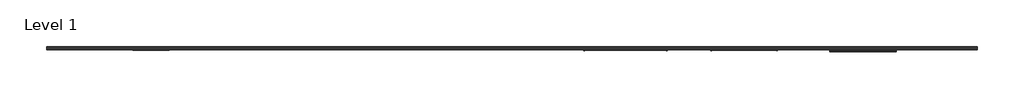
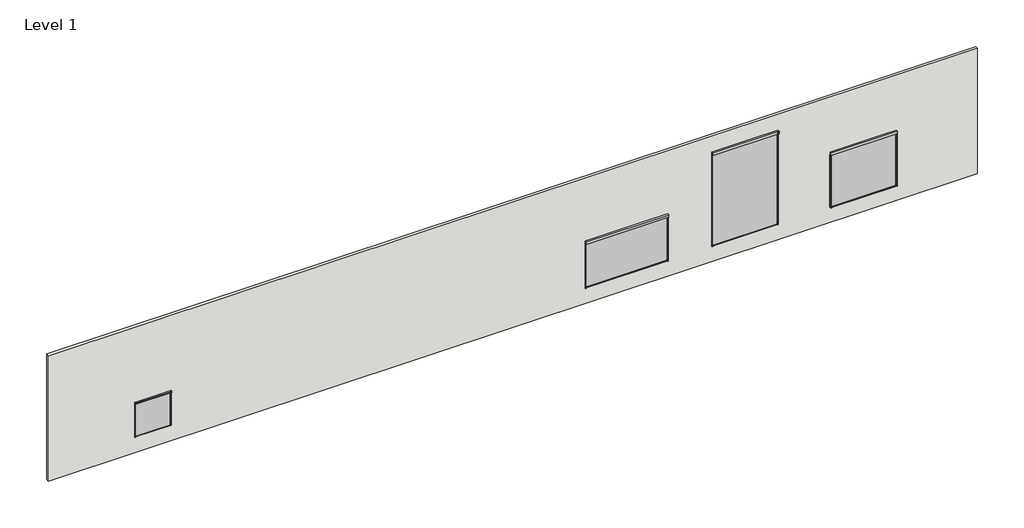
# One storey, incomplete: 4 proxies, 1 wall.
"""IFC4 building model written with IfcOpenShell, lengths in millimetres."""

from ifc_helpers import new_model, si_unit, origin, origin_with_axes, place, context, project, spatial, polyline, outline, extrude, transform, mapped, element, save
from components import generic_models_36cb86f8, generic_models_0fbfa0ec, generic_models_5faf2f5d, generic_models_8a4777b7, zip_80_zip_80_a5059c3e, zip110_r_zip110_r_12c8bcc6, zip110_r_zip110_r_a34fa557, zip110_r_zip110_r_59bd9ca7

model = new_model("IFC4")

# Units and contexts
model_context = context("Model", 3, world=origin())
ifc_project = project(units=[si_unit("LENGTHUNIT", "METRE", prefix="MILLI")], contexts=[model_context])

# Site, building, storey
site = spatial("IfcSite", under=ifc_project)
building = spatial("IfcBuilding", under=site)
storey = spatial("IfcBuildingStorey", under=building, Name="Level 1", Elevation=0.0)

# Proxies
placement = place(None, origin())
generic_models_shape = generic_models_36cb86f8(model_context)
generic_models_2_shape = generic_models_0fbfa0ec(model_context)
element("IfcBuildingElementProxy", 1, Name="ZIP135 - 4 meter bred : ZIP135 - 4 meter bred", ObjectType="ZIP135 - 4 meter bred : ZIP135 - 4 meter bred", at=placement, inside=storey, context=model_context, shape_type="MappedRepresentation", body=[
    mapped(generic_models_shape, transform((23866.9694241, 1647.9607181, 1000.0), x_axis=(1.0, 0.0, 0.0), y_axis=(0.0, 0.0, 1.0), z_axis=(0.0, -1.0, 0.0))),
    mapped(generic_models_2_shape, transform((23866.9694241, 1647.9607181, 1000.0), x_axis=(1.0, 0.0, 0.0), y_axis=(0.0, 0.0, 1.0), z_axis=(0.0, -1.0, 0.0))),
])
generic_models_3_shape = generic_models_5faf2f5d(model_context)
generic_models_4_shape = generic_models_8a4777b7(model_context)
element("IfcBuildingElementProxy", 2, Name="ZIP135 + 4 meter bred : ZIP135 + 4 meter bred", ObjectType="ZIP135 + 4 meter bred : ZIP135 + 4 meter bred", at=placement, inside=storey, context=model_context, shape_type="MappedRepresentation", body=[
    mapped(generic_models_3_shape, transform((16732.0197563, 1647.9607181, 1000.0), x_axis=(1.0, 0.0, 0.0), y_axis=(0.0, 0.0, 1.0), z_axis=(0.0, -1.0, 0.0))),
    mapped(generic_models_4_shape, transform((16732.0197563, 1647.9607181, 1000.0), x_axis=(1.0, 0.0, 0.0), y_axis=(0.0, 0.0, 1.0), z_axis=(0.0, -1.0, 0.0))),
])
zip_80_zip_80_shape = zip_80_zip_80_a5059c3e(model_context)
element("IfcBuildingElementProxy", 3, Name="ZIP 80 : ZIP 80", ObjectType="ZIP 80 : ZIP 80", at=placement, inside=storey, context=model_context, shape_type="MappedRepresentation", body=[
    mapped(zip_80_zip_80_shape, transform((-11807.7789148, 1647.9607181, 916.0), x_axis=(1.0, 0.0, 0.0), y_axis=(0.0, 0.0, 1.0), z_axis=(0.0, -1.0, 0.0))),
])
zip110_r_zip110_r_shape = zip110_r_zip110_r_12c8bcc6(model_context)
zip110_r_zip110_r_2_shape = zip110_r_zip110_r_a34fa557(model_context)
zip110_r_zip110_r_3_shape = zip110_r_zip110_r_59bd9ca7(model_context)
element("IfcBuildingElementProxy", 4, Name="ZIP110-R : ZIP110-R", ObjectType="ZIP110-R : ZIP110-R", at=placement, inside=storey, context=model_context, shape_type="MappedRepresentation", body=[
    mapped(zip110_r_zip110_r_shape, transform((31001.9190918, 1647.9607181, 1000.0), x_axis=(1.0, 0.0, 0.0), y_axis=(0.0, 0.0, 1.0), z_axis=(0.0, -1.0, 0.0))),
    mapped(zip110_r_zip110_r_2_shape, transform((31001.9190918, 1647.9607181, 1000.0), x_axis=(1.0, 0.0, 0.0), y_axis=(0.0, 0.0, 1.0), z_axis=(0.0, -1.0, 0.0))),
    mapped(zip110_r_zip110_r_3_shape, transform((31001.9190918, 1647.9607181, 1000.0), x_axis=(1.0, 0.0, 0.0), y_axis=(0.0, 0.0, 1.0), z_axis=(0.0, -1.0, 0.0))),
])

# Wall
element("IfcWall", 5, ObjectType="Generic - 200mm", at=placement, inside=storey, context=model_context, shape_type="SweptSolid", body=[
    extrude(outline(polyline([(37901.9190918, 1647.9607181), (-18098.0809082, 1647.9607181), (-18098.0809082, 1847.9607181), (37901.9190918, 1847.9607181), (37901.9190918, 1647.9607181)])), origin_with_axes(), (0.0, 0.0, 1.0), 8000.0),
])

save(model, "model.ifc")
